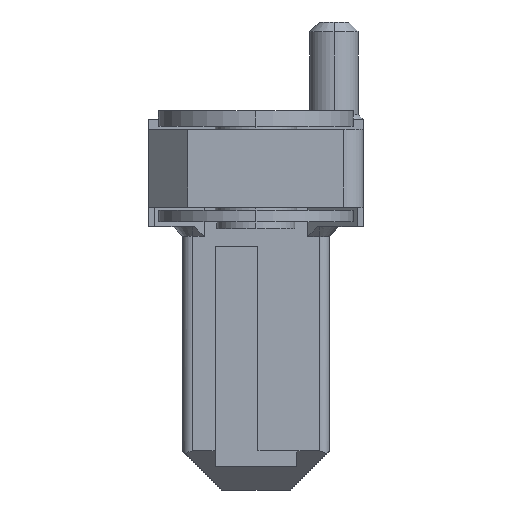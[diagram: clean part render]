
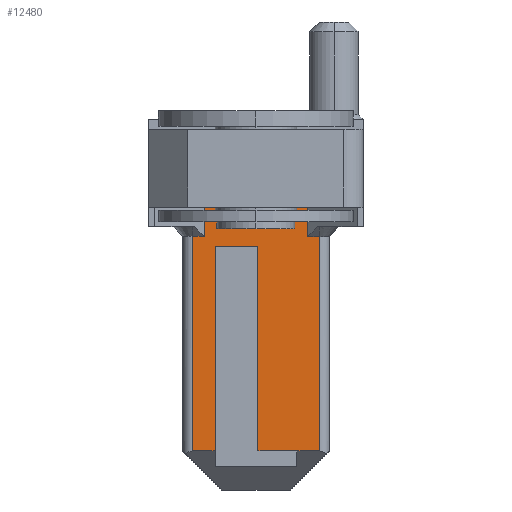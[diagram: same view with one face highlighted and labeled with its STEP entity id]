
A CAD part, left-side view. The second image highlights one B-rep face of the part: STEP entity #12480.
In plain terms, the highlighted planar face has unit normal (-1, 0, 0).
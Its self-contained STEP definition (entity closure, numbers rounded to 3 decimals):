
#10930=CARTESIAN_POINT('',(10.622,-1.836,-6.));
#10940=VERTEX_POINT('',#10930);
#11210=CARTESIAN_POINT('',(10.622,-1.836,-6.));
#11220=DIRECTION('',(0.,1.,0.));
#11230=VECTOR('',#11220,1.);
#11240=LINE('',#11210,#11230);
#11250=CARTESIAN_POINT('',(10.622,-1.236,-6.));
#11260=VERTEX_POINT('',#11250);
#11270=EDGE_CURVE('',#10940,#11260,#11240,.T.);
#11460=CARTESIAN_POINT('',(10.622,3.764,-5.5));
#11470=DIRECTION('',(1.,0.,0.));
#11480=DIRECTION('',(0.,1.,0.));
#11490=AXIS2_PLACEMENT_3D('',#11460,#11470,#11480);
#11500=PLANE('',#11490);
#11510=CARTESIAN_POINT('',(10.622,0.,-17.));
#11520=DIRECTION('',(0.,1.,0.));
#11530=VECTOR('',#11520,1.);
#11540=LINE('',#11510,#11530);
#11550=CARTESIAN_POINT('',(10.622,-1.836,-17.));
#11560=VERTEX_POINT('',#11550);
#11570=CARTESIAN_POINT('',(10.622,-0.686,-17.));
#11580=VERTEX_POINT('',#11570);
#11590=EDGE_CURVE('',#11560,#11580,#11540,.T.);
#11600=ORIENTED_EDGE('',*,*,#11590,.F.);
#11610=CARTESIAN_POINT('',(10.622,0.,-17.));
#11620=DIRECTION('',(0.,-1.,0.));
#11630=VECTOR('',#11620,1.);
#11640=LINE('',#11610,#11630);
#11650=CARTESIAN_POINT('',(10.622,1.314,-17.));
#11660=VERTEX_POINT('',#11650);
#11670=EDGE_CURVE('',#11660,#11580,#11640,.T.);
#11680=ORIENTED_EDGE('',*,*,#11670,.T.);
#11690=CARTESIAN_POINT('',(10.622,1.314,0.));
#11700=DIRECTION('',(0.,0.,-1.));
#11710=VECTOR('',#11700,1.);
#11720=LINE('',#11690,#11710);
#11730=CARTESIAN_POINT('',(10.622,1.314,-6.5));
#11740=VERTEX_POINT('',#11730);
#11750=EDGE_CURVE('',#11740,#11660,#11720,.T.);
#11760=ORIENTED_EDGE('',*,*,#11750,.T.);
#11770=CARTESIAN_POINT('',(10.622,3.514,-6.5));
#11780=DIRECTION('',(0.,-1.,0.));
#11790=VECTOR('',#11780,1.);
#11800=LINE('',#11770,#11790);
#11810=CARTESIAN_POINT('',(10.622,3.514,-6.5));
#11820=VERTEX_POINT('',#11810);
#11830=EDGE_CURVE('',#11820,#11740,#11800,.T.);
#11840=ORIENTED_EDGE('',*,*,#11830,.T.);
#11850=CARTESIAN_POINT('',(10.622,3.514,-6.5));
#11860=DIRECTION('',(0.,0.,-1.));
#11870=VECTOR('',#11860,1.);
#11880=LINE('',#11850,#11870);
#11890=CARTESIAN_POINT('',(10.622,3.514,-17.));
#11900=VERTEX_POINT('',#11890);
#11910=EDGE_CURVE('',#11820,#11900,#11880,.T.);
#11920=ORIENTED_EDGE('',*,*,#11910,.F.);
#11930=CARTESIAN_POINT('',(10.622,0.,-17.));
#11940=DIRECTION('',(0.,1.,0.));
#11950=VECTOR('',#11940,1.);
#11960=LINE('',#11930,#11950);
#11970=CARTESIAN_POINT('',(10.622,4.664,-17.));
#11980=VERTEX_POINT('',#11970);
#11990=EDGE_CURVE('',#11900,#11980,#11960,.T.);
#12000=ORIENTED_EDGE('',*,*,#11990,.F.);
#12010=CARTESIAN_POINT('',(10.622,4.664,0.));
#12020=DIRECTION('',(0.,0.,1.));
#12030=VECTOR('',#12020,1.);
#12040=LINE('',#12010,#12030);
#12050=CARTESIAN_POINT('',(10.622,4.664,-6.));
#12060=VERTEX_POINT('',#12050);
#12070=EDGE_CURVE('',#11980,#12060,#12040,.T.);
#12080=ORIENTED_EDGE('',*,*,#12070,.F.);
#12090=CARTESIAN_POINT('',(10.622,4.664,-6.));
#12100=DIRECTION('',(0.,-1.,0.));
#12110=VECTOR('',#12100,1.);
#12120=LINE('',#12090,#12110);
#12130=CARTESIAN_POINT('',(10.622,4.064,-6.));
#12140=VERTEX_POINT('',#12130);
#12150=EDGE_CURVE('',#12060,#12140,#12120,.T.);
#12160=ORIENTED_EDGE('',*,*,#12150,.F.);
#12170=CARTESIAN_POINT('',(10.622,4.064,-4.5));
#12180=DIRECTION('',(0.,0.,-1.));
#12190=VECTOR('',#12180,1.);
#12200=LINE('',#12170,#12190);
#12210=CARTESIAN_POINT('',(10.622,4.064,-4.5));
#12220=VERTEX_POINT('',#12210);
#12230=EDGE_CURVE('',#12220,#12140,#12200,.T.);
#12240=ORIENTED_EDGE('',*,*,#12230,.T.);
#12250=CARTESIAN_POINT('',(10.622,-1.236,-4.5));
#12260=DIRECTION('',(0.,1.,0.));
#12270=VECTOR('',#12260,1.);
#12280=LINE('',#12250,#12270);
#12290=CARTESIAN_POINT('',(10.622,-1.236,-4.5));
#12300=VERTEX_POINT('',#12290);
#12310=EDGE_CURVE('',#12300,#12220,#12280,.T.);
#12320=ORIENTED_EDGE('',*,*,#12310,.T.);
#12330=CARTESIAN_POINT('',(10.622,-1.236,-6.));
#12340=DIRECTION('',(0.,0.,1.));
#12350=VECTOR('',#12340,1.);
#12360=LINE('',#12330,#12350);
#12370=EDGE_CURVE('',#11260,#12300,#12360,.T.);
#12380=ORIENTED_EDGE('',*,*,#12370,.T.);
#12390=ORIENTED_EDGE('',*,*,#11270,.T.);
#12400=CARTESIAN_POINT('',(10.622,-1.836,0.));
#12410=DIRECTION('',(0.,0.,-1.));
#12420=VECTOR('',#12410,1.);
#12430=LINE('',#12400,#12420);
#12440=EDGE_CURVE('',#10940,#11560,#12430,.T.);
#12450=ORIENTED_EDGE('',*,*,#12440,.F.);
#12460=EDGE_LOOP('',(#12450,#12390,#12380,#12320,#12240,#12160,#12080,
#12000,#11920,#11840,#11760,#11680,#11600));
#12470=FACE_OUTER_BOUND('',#12460,.T.);
#12480=ADVANCED_FACE('',(#12470),#11500,.F.);
